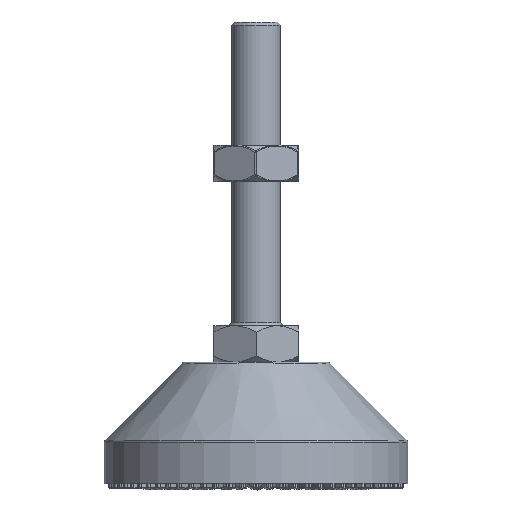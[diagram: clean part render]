
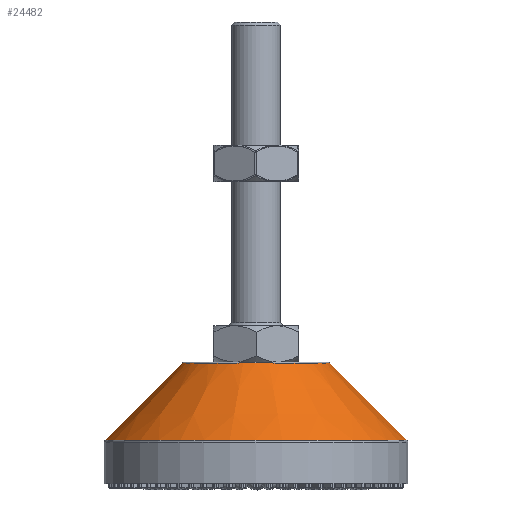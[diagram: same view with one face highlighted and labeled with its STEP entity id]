
A CAD part, top view. The second image highlights one B-rep face of the part: STEP entity #24482.
In plain terms, the highlighted conical face has half-angle 45 degrees and reference radius 12 mm.
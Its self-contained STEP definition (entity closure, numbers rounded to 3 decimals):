
#200 = DIRECTION ( 'NONE',  ( 1., 0., 0. ) ) ;
#1169 = AXIS2_PLACEMENT_3D ( 'NONE', #4311, #17636, #6246 ) ;
#4311 = CARTESIAN_POINT ( 'NONE',  ( 0., 0., 7.146 ) ) ;
#4891 = EDGE_CURVE ( 'NONE', #21433, #8921, #20980, .T. ) ;
#5023 = CARTESIAN_POINT ( 'NONE',  ( 12., 0., 20. ) ) ;
#5840 = CARTESIAN_POINT ( 'NONE',  ( -12., 0., 20. ) ) ;
#6221 = VERTEX_POINT ( 'NONE', #6449 ) ;
#6246 = DIRECTION ( 'NONE',  ( -1., 0., 0. ) ) ;
#6449 = CARTESIAN_POINT ( 'NONE',  ( -24.854, 0., 7.146 ) ) ;
#7389 = ORIENTED_EDGE ( 'NONE', *, *, #10847, .T. ) ;
#8921 = VERTEX_POINT ( 'NONE', #23686 ) ;
#9045 = ORIENTED_EDGE ( 'NONE', *, *, #12735, .T. ) ;
#9501 = AXIS2_PLACEMENT_3D ( 'NONE', #20963, #21046, #22945 ) ;
#10847 = EDGE_CURVE ( 'NONE', #6221, #8921, #15653, .T. ) ;
#11655 = DIRECTION ( 'NONE',  ( 0., 0., -1. ) ) ;
#12735 = EDGE_CURVE ( 'NONE', #13762, #6221, #20949, .T. ) ;
#13021 = AXIS2_PLACEMENT_3D ( 'NONE', #23065, #11655, #200 ) ;
#13413 = CARTESIAN_POINT ( 'NONE',  ( -12.146, 0., 19.854 ) ) ;
#13641 = CARTESIAN_POINT ( 'NONE',  ( 12.146, 0., 19.854 ) ) ;
#13762 = VERTEX_POINT ( 'NONE', #13413 ) ;
#14451 = FACE_OUTER_BOUND ( 'NONE', #15619, .T. ) ;
#14539 = DIRECTION ( 'NONE',  ( 0.707, 0., -0.707 ) ) ;
#15619 = EDGE_LOOP ( 'NONE', ( #18162, #19780, #9045, #7389 ) ) ;
#15653 = CIRCLE ( 'NONE', #1169, 24.854 ) ;
#15897 = VECTOR ( 'NONE', #17313, 1000. ) ;
#15926 = VECTOR ( 'NONE', #14539, 1000. ) ;
#16839 = CIRCLE ( 'NONE', #13021, 12.146 ) ;
#17313 = DIRECTION ( 'NONE',  ( -0.707, 0., -0.707 ) ) ;
#17636 = DIRECTION ( 'NONE',  ( 0., 0., 1. ) ) ;
#18162 = ORIENTED_EDGE ( 'NONE', *, *, #4891, .F. ) ;
#19780 = ORIENTED_EDGE ( 'NONE', *, *, #23899, .T. ) ;
#20949 = LINE ( 'NONE', #5840, #15897 ) ;
#20963 = CARTESIAN_POINT ( 'NONE',  ( 0., 0., 20. ) ) ;
#20980 = LINE ( 'NONE', #5023, #15926 ) ;
#21046 = DIRECTION ( 'NONE',  ( 0., 0., -1. ) ) ;
#21433 = VERTEX_POINT ( 'NONE', #13641 ) ;
#22945 = DIRECTION ( 'NONE',  ( -1., 0., 0. ) ) ;
#23065 = CARTESIAN_POINT ( 'NONE',  ( 0., 0., 19.854 ) ) ;
#23686 = CARTESIAN_POINT ( 'NONE',  ( 24.854, 0., 7.146 ) ) ;
#23899 = EDGE_CURVE ( 'NONE', #21433, #13762, #16839, .T. ) ;
#23979 = CONICAL_SURFACE ( 'NONE', #9501, 12., 0.785 ) ;
#24482 = ADVANCED_FACE ( 'NONE', ( #14451 ), #23979, .T. ) ;
